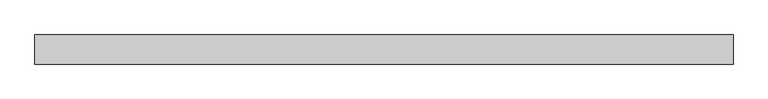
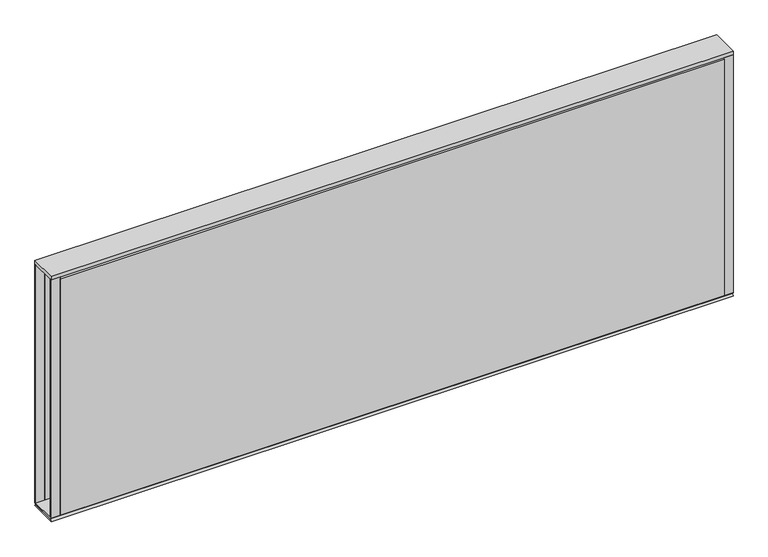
"""IFC4 building model written with IfcOpenShell, lengths in millimetres: furniture geometry, Steelcase - Kick Solutions - Panel - Stacker - Tackable Acoustical : 18H x 48W."""

import ifcopenshell
import ifcopenshell.guid

model = None  # the IFC model being written
_history = None  # IfcOwnerHistory: only IFC2X3 demands one
_inside = {}  # id of a spatial element -> (the spatial element, [elements in it])
_under = {}  # id of a project, library or spatial element -> (it, [spatial elements below it])
_declared = {}  # id of a project -> (the project, [libraries it declares])
_typed = {}  # id of a type object -> (the type object, [elements of that type])
_made_of = {}  # id of a material, layer set ... -> (it, [elements and type objects made of it])


def new_model(schema):
    """Start an empty IFC model of exactly this schema.

    Asked for "IFC4X3", IfcOpenShell would pick the latest addendum, in which some entities
    have other attributes; the version numbers below select the first issue.
    IFC2X3 requires an IfcOwnerHistory on every rooted entity: one is made here for all.
    """
    global model, _history
    if schema == "IFC4X3":
        model = ifcopenshell.file(schema_version=(4, 3, 0, 0))
    else:
        model = ifcopenshell.file(schema=schema)
    _inside.clear()
    _under.clear()
    _declared.clear()
    _typed.clear()
    _made_of.clear()
    _history = None
    if model.schema == "IFC2X3":
        org = make("IfcOrganization", Name="unknown")
        user = make(
            "IfcPersonAndOrganization",
            ThePerson=make("IfcPerson", FamilyName="unknown"),
            TheOrganization=org,
        )
        app = make(
            "IfcApplication",
            ApplicationDeveloper=org,
            Version="unknown",
            ApplicationFullName="unknown",
            ApplicationIdentifier="unknown",
        )
        _history = make(
            "IfcOwnerHistory",
            OwningUser=user,
            OwningApplication=app,
            ChangeAction="ADDED",
            CreationDate=0,
        )
    return model


def make(cls, **values):
    """One entity of the class cls with the attributes given. An attribute that is None is left unset."""
    return model.create_entity(
        cls, **{name: value for name, value in values.items() if value is not None}
    )


def rooted(cls, **values):
    """An entity with a GlobalId (a new one), such as an element, a storey or a relation."""
    return make(cls, GlobalId=ifcopenshell.guid.new(), OwnerHistory=_history, **values)


def si_unit(unit_type, name, prefix=None):
    """IfcSIUnit, for example si_unit("LENGTHUNIT", "METRE", prefix="MILLI")."""
    return make("IfcSIUnit", UnitType=unit_type, Prefix=prefix, Name=name)


def assignment(units):
    """IfcUnitAssignment: the units of a project."""
    return None if units is None else make("IfcUnitAssignment", Units=units)


def point(xyz):
    """IfcCartesianPoint."""
    return None if xyz is None else make("IfcCartesianPoint", Coordinates=xyz)


def direction(xyz):
    """IfcDirection."""
    return None if xyz is None else make("IfcDirection", DirectionRatios=xyz)


def frame(location, z_axis=None, x_axis=None):
    """IfcAxis2Placement3D, a coordinate frame: its origin and axes. An axis left out is left unset."""
    return make(
        "IfcAxis2Placement3D",
        Location=point(location),
        Axis=direction(z_axis),
        RefDirection=direction(x_axis),
    )


def origin():
    """The frame at (0, 0, 0) with its axes left unset."""
    return frame((0.0, 0.0, 0.0))


def place(relative_to, where):
    """IfcLocalPlacement: puts the frame where relative to a parent placement (None: the world)."""
    return make(
        "IfcLocalPlacement", PlacementRelTo=relative_to, RelativePlacement=where
    )


def context(
    kind, dimensions, precision=None, world=None, true_north=None, identifier=None
):
    """IfcGeometricRepresentationContext, for example the 3D "Model" context."""
    return make(
        "IfcGeometricRepresentationContext",
        ContextIdentifier=identifier,
        ContextType=kind,
        CoordinateSpaceDimension=dimensions,
        Precision=precision,
        WorldCoordinateSystem=world,
        TrueNorth=true_north,
    )


def project(units=None, contexts=None):
    """IfcProject with its units and contexts."""
    return rooted(
        "IfcProject",
        Name="project",
        RepresentationContexts=contexts,
        UnitsInContext=assignment(units),
    )


def spatial(cls, under=None, at=None, **own):
    """A site, building, storey or space (cls), placed at a placement, below another one or the project."""
    s = rooted(cls, ObjectPlacement=at, **own)
    if under is not None:
        _under.setdefault(under.id(), (under, []))[1].append(s)
    return s


def polyline(points):
    """IfcPolyline through the points."""
    return make("IfcPolyline", Points=[point(p) for p in points])


def outline(outer, holes=None, kind="AREA"):
    """IfcArbitraryClosedProfileDef: a profile drawn as a closed curve; with holes, ...WithVoids."""
    if holes is None:
        return make("IfcArbitraryClosedProfileDef", ProfileType=kind, OuterCurve=outer)
    return make(
        "IfcArbitraryProfileDefWithVoids",
        ProfileType=kind,
        OuterCurve=outer,
        InnerCurves=holes,
    )


def extrude(swept, where, along, depth):
    """IfcExtrudedAreaSolid: the profile swept, set in the frame where, extruded along a direction by depth."""
    return make(
        "IfcExtrudedAreaSolid",
        SweptArea=swept,
        Position=where,
        ExtrudedDirection=direction(along),
        Depth=depth,
    )


def shape(context_of_items, identifier, shape_type, items):
    """IfcShapeRepresentation: the items that make up one representation, for example the "Body"."""
    return make(
        "IfcShapeRepresentation",
        ContextOfItems=context_of_items,
        RepresentationIdentifier=identifier,
        RepresentationType=shape_type,
        Items=items,
    )


def source(mapping_origin, context_of_items, identifier, shape_type, items):
    """IfcRepresentationMap: a shape defined once, which mapped items show again and again."""
    return make(
        "IfcRepresentationMap",
        MappingOrigin=mapping_origin,
        MappedRepresentation=shape(context_of_items, identifier, shape_type, items),
    )


def transform(
    local_origin,
    x_axis=None,
    y_axis=None,
    z_axis=None,
    scale=None,
    scale2=None,
    scale3=None,
    uniform=True,
):
    """IfcCartesianTransformationOperator3D, or its non-uniform kind. x_axis, y_axis, z_axis: its Axis1, 2, 3."""
    if uniform:
        return make(
            "IfcCartesianTransformationOperator3D",
            Axis1=direction(x_axis),
            Axis2=direction(y_axis),
            LocalOrigin=point(local_origin),
            Scale=scale,
            Axis3=direction(z_axis),
        )
    return make(
        "IfcCartesianTransformationOperator3DnonUniform",
        Axis1=direction(x_axis),
        Axis2=direction(y_axis),
        LocalOrigin=point(local_origin),
        Scale=scale,
        Axis3=direction(z_axis),
        Scale2=scale2,
        Scale3=scale3,
    )


def mapped(mapping_source, mapping_target):
    """IfcMappedItem: shows the shape of a source again, moved by a transform."""
    return make(
        "IfcMappedItem", MappingSource=mapping_source, MappingTarget=mapping_target
    )


def made_of(thing, what):
    """Note that an element or type object is made of a material, layer set ...; save() writes the relation."""
    if what is not None:
        _made_of.setdefault(what.id(), (what, []))[1].append(thing)
    return thing


def element(
    cls,
    number,
    at=None,
    inside=None,
    cuts=None,
    type_object=None,
    material=None,
    context=None,
    identifier="Body",
    shape_type=None,
    held_by="IfcProductDefinitionShape",
    body=None,
    shapes=None,
    **own,
):
    """One element of the class cls, such as IfcWall. Its Tag is "e" and its number.

    at: its placement. inside: the storey or other place that contains it. cuts: it is an
    opening in that element (IfcRelVoidsElement). A single representation is given by context,
    identifier, shape_type and body (its items); several are given by shapes. held_by: the class
    of the entity that holds the representations. save() writes the other relations.
    """
    e = rooted(cls, Tag="e%d" % number, ObjectPlacement=at, **own)
    if body is not None:
        shapes = [shape(context, identifier, shape_type, body)]
    if shapes is not None:
        e.Representation = make(held_by, Representations=shapes)
    if inside is not None:
        _inside.setdefault(inside.id(), (inside, []))[1].append(e)
    if cuts is not None:
        rooted(
            "IfcRelVoidsElement", RelatingBuildingElement=cuts, RelatedOpeningElement=e
        )
    if type_object is not None:
        _typed.setdefault(type_object.id(), (type_object, []))[1].append(e)
    return made_of(e, material)


def aggregate(whole, parts):
    """IfcRelAggregates: a whole, such as a stair, and the parts it consists of."""
    return rooted("IfcRelAggregates", RelatingObject=whole, RelatedObjects=parts)


def save(model, path):
    """Write the relations noted so far, then the file.

    IfcRelAggregates (storeys below a building ...), IfcRelContainedInSpatialStructure (elements
    in a storey), IfcRelDefinesByType, IfcRelAssociatesMaterial and IfcRelDeclares: one each for
    every whole, place, type object, material and project.
    """
    for whole, parts in _under.values():
        aggregate(whole, parts)
    for where, things in _inside.values():
        rooted(
            "IfcRelContainedInSpatialStructure",
            RelatedElements=things,
            RelatingStructure=where,
        )
    for kind, things in _typed.values():
        rooted("IfcRelDefinesByType", RelatedObjects=things, RelatingType=kind)
    for what, things in _made_of.values():
        rooted("IfcRelAssociatesMaterial", RelatedObjects=things, RelatingMaterial=what)
    for by, libraries in _declared.values():
        rooted("IfcRelDeclares", RelatingContext=by, RelatedDefinitions=libraries)
    model.write(path)


def furniture_edf6d151(model_context):
    return source(origin(), model_context, "Body", "SweptSolid", [
        extrude(outline(polyline([(-50.7995075, 1073.2669139), (-0.000494, 1073.2669139), (-3.1752531, 1070.0921549), (-47.6247484, 1070.0921549), (-50.7995075, 1073.2669139)])), frame((0.0, 0.0, 0.0), z_axis=(1.0, 0.0, 0.0), x_axis=(0.0, 1.0, 0.0)), (0.0, 0.0, 1.0), 1219.2),
        extrude(outline(polyline([(0.0, 1073.2669139), (-3.1750015, 1073.2669139), (-3.1750015, 1524.1169018), (0.0, 1521.0357466), (0.0, 1073.2669139)])), frame((15.8749996, 0.0, 0.0), z_axis=(1.0, 0.0, 0.0), x_axis=(0.0, 1.0, 0.0)), (0.0, 0.0, 1.0), 1187.4500008),
        extrude(outline(polyline([(-50.8000015, 1073.2669139), (-50.8000015, 1521.0357466), (-47.625, 1524.1169018), (-47.625, 1073.2669139), (-50.8000015, 1073.2669139)])), frame((15.8749996, 0.0, 0.0), z_axis=(1.0, 0.0, 0.0), x_axis=(0.0, 1.0, 0.0)), (0.0, 0.0, 1.0), 1187.4500008),
        extrude(outline(polyline([(1219.2, -3.1750015), (1203.3250004, -3.1750015), (1203.3250004, 0.0), (1219.2, 0.0), (1219.2, -3.1750015)])), frame((0.0, 0.0, 1073.2669139), z_axis=(0.0, 0.0, 1.0), x_axis=(1.0, 0.0, 0.0)), (0.0, 0.0, 1.0), 450.8499879),
        extrude(outline(polyline([(15.8749996, -50.8000015), (0.0, -50.8000015), (0.0, -47.625), (15.8749996, -47.625), (15.8749996, -50.8000015)])), frame((0.0, 0.0, 1073.2669139), z_axis=(0.0, 0.0, 1.0), x_axis=(1.0, 0.0, 0.0)), (0.0, 0.0, 1.0), 450.8499879),
        extrude(outline(polyline([(1219.2, 0.0), (1219.2, -50.8000015), (0.0, -50.8000015), (0.0, 0.0), (1219.2, 0.0)])), frame((0.0, 0.0, 1524.1169018), z_axis=(0.0, 0.0, 1.0), x_axis=(1.0, 0.0, 0.0)), (0.0, 0.0, 1.0), 6.35),
        extrude(outline(polyline([(15.8749996, -3.1750015), (0.0, -3.1750015), (0.0, 0.0), (15.8749996, 0.0), (15.8749996, -3.1750015)])), frame((0.0, 0.0, 1073.2669139), z_axis=(0.0, 0.0, 1.0), x_axis=(1.0, 0.0, 0.0)), (0.0, 0.0, 1.0), 450.8499879),
        extrude(outline(polyline([(1219.2, -50.8000015), (1203.3250004, -50.8000015), (1203.3250004, -47.625), (1219.2, -47.625), (1219.2, -50.8000015)])), frame((0.0, 0.0, 1073.2669139), z_axis=(0.0, 0.0, 1.0), x_axis=(1.0, 0.0, 0.0)), (0.0, 0.0, 1.0), 450.8499879),
        extrude(outline(polyline([(-50.8000015, 1066.9169018), (-47.6247484, 1070.0921549), (-3.1752531, 1070.0921549), (0.0, 1066.9169018), (-50.8000015, 1066.9169018)])), frame((0.0, 0.0, 0.0), z_axis=(1.0, 0.0, 0.0), x_axis=(0.0, 1.0, 0.0)), (0.0, 0.0, 1.0), 1219.2),
    ])


if __name__ == "__main__":
    model = new_model("IFC4")
    model_context = context("Model", 3, world=origin())
    ifc_project = project(units=[si_unit("LENGTHUNIT", "METRE", prefix="MILLI")], contexts=[model_context])
    site = spatial("IfcSite", under=ifc_project)
    building = spatial("IfcBuilding", under=site)
    placement = place(None, origin())
    furniture_shape = furniture_edf6d151(model_context)
    element("IfcFurniture", 1, ObjectType="Steelcase - Kick Solutions - Panel - Stacker - Tackable Acoustical : 18H x 48W", at=placement, inside=building, context=model_context, shape_type="MappedRepresentation", body=[
        mapped(furniture_shape, transform((0.0, 0.0, 0.0), x_axis=(1.0, 0.0, 0.0), y_axis=(0.0, 1.0, 0.0), z_axis=(0.0, 0.0, 1.0))),
    ])
    save(model, "model.ifc")
